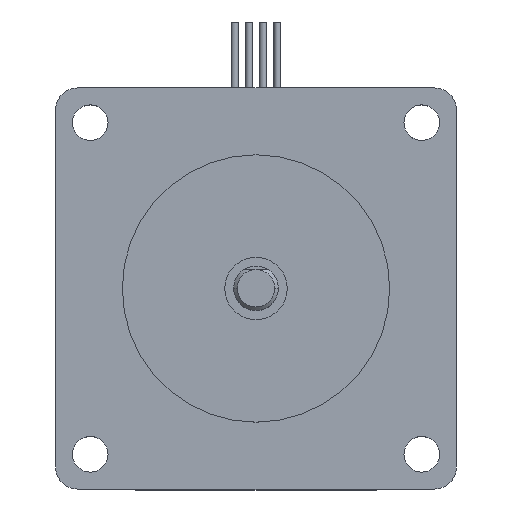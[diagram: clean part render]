
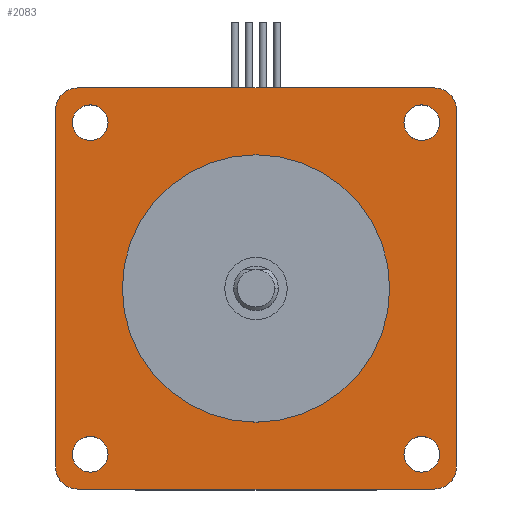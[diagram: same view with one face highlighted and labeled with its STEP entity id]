
A CAD part, top view. The second image highlights one B-rep face of the part: STEP entity #2083.
In plain terms, the highlighted planar face has unit normal (0, 0, 1).
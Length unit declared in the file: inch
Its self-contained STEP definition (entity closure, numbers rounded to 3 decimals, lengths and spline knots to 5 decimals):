
#99=CARTESIAN_POINT('',(-1.03,0.93,3.1));
#100=VERTEX_POINT('',#99);
#116=CARTESIAN_POINT('',(-0.83,0.93,3.1));
#117=VERTEX_POINT('',#116);
#124=CARTESIAN_POINT('',(-0.93,0.93,3.1));
#125=DIRECTION('',(0.0,0.0,-1.0));
#126=DIRECTION('',(-1.0,0.0,0.0));
#127=AXIS2_PLACEMENT_3D('',#124,#125,#126);
#128=CIRCLE('',#127,0.1);
#129=EDGE_CURVE('',#100,#117,#128,.T.);
#141=CARTESIAN_POINT('',(0.93,1.03,3.1));
#142=VERTEX_POINT('',#141);
#158=CARTESIAN_POINT('',(0.93,0.83,3.1));
#159=VERTEX_POINT('',#158);
#166=CARTESIAN_POINT('',(0.93,0.93,3.1));
#167=DIRECTION('',(0.0,0.0,-1.0));
#168=DIRECTION('',(0.0,1.0,0.0));
#169=AXIS2_PLACEMENT_3D('',#166,#167,#168);
#170=CIRCLE('',#169,0.1);
#171=EDGE_CURVE('',#142,#159,#170,.T.);
#183=CARTESIAN_POINT('',(-0.93,-1.03,3.1));
#184=VERTEX_POINT('',#183);
#200=CARTESIAN_POINT('',(-0.93,-0.83,3.1));
#201=VERTEX_POINT('',#200);
#208=CARTESIAN_POINT('',(-0.93,-0.93,3.1));
#209=DIRECTION('',(0.0,0.0,-1.0));
#210=DIRECTION('',(0.0,-1.0,0.0));
#211=AXIS2_PLACEMENT_3D('',#208,#209,#210);
#212=CIRCLE('',#211,0.1);
#213=EDGE_CURVE('',#184,#201,#212,.T.);
#225=CARTESIAN_POINT('',(1.03,-0.93,3.1));
#226=VERTEX_POINT('',#225);
#242=CARTESIAN_POINT('',(0.83,-0.93,3.1));
#243=VERTEX_POINT('',#242);
#250=CARTESIAN_POINT('',(0.93,-0.93,3.1));
#251=DIRECTION('',(0.0,0.0,-1.0));
#252=DIRECTION('',(1.0,0.0,0.0));
#253=AXIS2_PLACEMENT_3D('',#250,#251,#252);
#254=CIRCLE('',#253,0.1);
#255=EDGE_CURVE('',#226,#243,#254,.T.);
#265=CARTESIAN_POINT('',(-0.75,0.,3.1));
#266=VERTEX_POINT('',#265);
#275=CARTESIAN_POINT('',(0.75,0.,3.1));
#276=VERTEX_POINT('',#275);
#277=CARTESIAN_POINT('',(0.0,0.0,3.1));
#278=DIRECTION('',(0.0,0.0,-1.0));
#279=DIRECTION('',(-1.0,0.0,0.0));
#280=AXIS2_PLACEMENT_3D('',#277,#278,#279);
#281=CIRCLE('',#280,0.75);
#282=EDGE_CURVE('',#276,#266,#281,.T.);
#1358=CARTESIAN_POINT('',(1.0,-1.125,3.1));
#1359=VERTEX_POINT('',#1358);
#1366=CARTESIAN_POINT('',(-1.,-1.125,3.1));
#1367=VERTEX_POINT('',#1366);
#1368=CARTESIAN_POINT('',(-1.,-1.125,3.1));
#1369=DIRECTION('',(1.0,0.0,0.0));
#1370=VECTOR('',#1369,2.);
#1371=LINE('',#1368,#1370);
#1372=EDGE_CURVE('',#1367,#1359,#1371,.T.);
#1397=CARTESIAN_POINT('',(-1.125,-1.,3.1));
#1398=VERTEX_POINT('',#1397);
#1405=CARTESIAN_POINT('',(-1.125,1.0,3.1));
#1406=VERTEX_POINT('',#1405);
#1407=CARTESIAN_POINT('',(-1.125,1.0,3.1));
#1408=DIRECTION('',(0.0,-1.0,0.0));
#1409=VECTOR('',#1408,2.);
#1410=LINE('',#1407,#1409);
#1411=EDGE_CURVE('',#1406,#1398,#1410,.T.);
#1839=CARTESIAN_POINT('',(-1.,1.125,3.1));
#1840=VERTEX_POINT('',#1839);
#1841=CARTESIAN_POINT('',(-1.,1.0,3.1));
#1842=DIRECTION('',(0.0,0.0,1.0));
#1843=DIRECTION('',(0.0,1.0,0.0));
#1844=AXIS2_PLACEMENT_3D('',#1841,#1842,#1843);
#1845=CIRCLE('',#1844,0.125);
#1846=EDGE_CURVE('',#1840,#1406,#1845,.T.);
#1864=CARTESIAN_POINT('',(-1.,-1.,3.1));
#1865=DIRECTION('',(0.0,0.0,1.0));
#1866=DIRECTION('',(-1.0,0.0,0.0));
#1867=AXIS2_PLACEMENT_3D('',#1864,#1865,#1866);
#1868=CIRCLE('',#1867,0.125);
#1869=EDGE_CURVE('',#1398,#1367,#1868,.T.);
#1890=CARTESIAN_POINT('',(1.0,1.125,3.1));
#1891=VERTEX_POINT('',#1890);
#1892=CARTESIAN_POINT('',(1.0,1.125,3.1));
#1893=DIRECTION('',(-1.0,0.0,0.0));
#1894=VECTOR('',#1893,2.0);
#1895=LINE('',#1892,#1894);
#1896=EDGE_CURVE('',#1891,#1840,#1895,.T.);
#1930=CARTESIAN_POINT('',(1.125,-1.,3.1));
#1931=VERTEX_POINT('',#1930);
#1938=CARTESIAN_POINT('',(1.0,-1.,3.1));
#1939=DIRECTION('',(0.0,0.0,1.0));
#1940=DIRECTION('',(0.0,-1.0,0.0));
#1941=AXIS2_PLACEMENT_3D('',#1938,#1939,#1940);
#1942=CIRCLE('',#1941,0.125);
#1943=EDGE_CURVE('',#1359,#1931,#1942,.T.);
#1987=CARTESIAN_POINT('',(0.0,0.0,3.1));
#1988=DIRECTION('',(0.0,0.0,-1.0));
#1989=DIRECTION('',(-1.0,0.0,0.0));
#1990=AXIS2_PLACEMENT_3D('',#1987,#1988,#1989);
#1991=CIRCLE('',#1990,0.75);
#1992=EDGE_CURVE('',#266,#276,#1991,.T.);
#2011=CARTESIAN_POINT('',(0.0,0.0,3.1));
#2012=DIRECTION('',(0.0,0.0,1.0));
#2013=DIRECTION('',(1.0,0.0,0.0));
#2014=AXIS2_PLACEMENT_3D('',#2011,#2012,#2013);
#2015=PLANE('',#2014);
#2016=ORIENTED_EDGE('',*,*,#1846,.T.);
#2017=ORIENTED_EDGE('',*,*,#1411,.T.);
#2018=ORIENTED_EDGE('',*,*,#1869,.T.);
#2019=ORIENTED_EDGE('',*,*,#1372,.T.);
#2020=ORIENTED_EDGE('',*,*,#1943,.T.);
#2021=CARTESIAN_POINT('',(1.125,1.0,3.1));
#2022=VERTEX_POINT('',#2021);
#2023=CARTESIAN_POINT('',(1.125,-1.,3.1));
#2024=DIRECTION('',(0.0,1.0,0.0));
#2025=VECTOR('',#2024,2.);
#2026=LINE('',#2023,#2025);
#2027=EDGE_CURVE('',#1931,#2022,#2026,.T.);
#2028=ORIENTED_EDGE('',*,*,#2027,.T.);
#2029=CARTESIAN_POINT('',(1.0,1.0,3.1));
#2030=DIRECTION('',(0.0,0.0,1.0));
#2031=DIRECTION('',(1.0,0.0,0.0));
#2032=AXIS2_PLACEMENT_3D('',#2029,#2030,#2031);
#2033=CIRCLE('',#2032,0.125);
#2034=EDGE_CURVE('',#2022,#1891,#2033,.T.);
#2035=ORIENTED_EDGE('',*,*,#2034,.T.);
#2036=ORIENTED_EDGE('',*,*,#1896,.T.);
#2037=EDGE_LOOP('',(#2016,#2017,#2018,#2019,#2020,#2028,#2035,#2036));
#2038=FACE_OUTER_BOUND('',#2037,.T.);
#2039=CARTESIAN_POINT('',(-0.93,0.93,3.1));
#2040=DIRECTION('',(0.0,0.0,-1.0));
#2041=DIRECTION('',(-1.0,0.0,0.0));
#2042=AXIS2_PLACEMENT_3D('',#2039,#2040,#2041);
#2043=CIRCLE('',#2042,0.1);
#2044=EDGE_CURVE('',#117,#100,#2043,.T.);
#2045=ORIENTED_EDGE('',*,*,#2044,.T.);
#2046=ORIENTED_EDGE('',*,*,#129,.T.);
#2047=EDGE_LOOP('',(#2045,#2046));
#2048=FACE_BOUND('',#2047,.T.);
#2049=CARTESIAN_POINT('',(0.93,0.93,3.1));
#2050=DIRECTION('',(0.0,0.0,-1.0));
#2051=DIRECTION('',(0.0,1.0,0.0));
#2052=AXIS2_PLACEMENT_3D('',#2049,#2050,#2051);
#2053=CIRCLE('',#2052,0.1);
#2054=EDGE_CURVE('',#159,#142,#2053,.T.);
#2055=ORIENTED_EDGE('',*,*,#2054,.T.);
#2056=ORIENTED_EDGE('',*,*,#171,.T.);
#2057=EDGE_LOOP('',(#2055,#2056));
#2058=FACE_BOUND('',#2057,.T.);
#2059=CARTESIAN_POINT('',(-0.93,-0.93,3.1));
#2060=DIRECTION('',(0.0,0.0,-1.0));
#2061=DIRECTION('',(0.0,-1.0,0.0));
#2062=AXIS2_PLACEMENT_3D('',#2059,#2060,#2061);
#2063=CIRCLE('',#2062,0.1);
#2064=EDGE_CURVE('',#201,#184,#2063,.T.);
#2065=ORIENTED_EDGE('',*,*,#2064,.T.);
#2066=ORIENTED_EDGE('',*,*,#213,.T.);
#2067=EDGE_LOOP('',(#2065,#2066));
#2068=FACE_BOUND('',#2067,.T.);
#2069=CARTESIAN_POINT('',(0.93,-0.93,3.1));
#2070=DIRECTION('',(0.0,0.0,-1.0));
#2071=DIRECTION('',(1.0,0.0,0.0));
#2072=AXIS2_PLACEMENT_3D('',#2069,#2070,#2071);
#2073=CIRCLE('',#2072,0.1);
#2074=EDGE_CURVE('',#243,#226,#2073,.T.);
#2075=ORIENTED_EDGE('',*,*,#2074,.T.);
#2076=ORIENTED_EDGE('',*,*,#255,.T.);
#2077=EDGE_LOOP('',(#2075,#2076));
#2078=FACE_BOUND('',#2077,.T.);
#2079=ORIENTED_EDGE('',*,*,#282,.T.);
#2080=ORIENTED_EDGE('',*,*,#1992,.T.);
#2081=EDGE_LOOP('',(#2079,#2080));
#2082=FACE_BOUND('',#2081,.T.);
#2083=ADVANCED_FACE('',(#2038,#2048,#2058,#2068,#2078,#2082),#2015,.T.);
